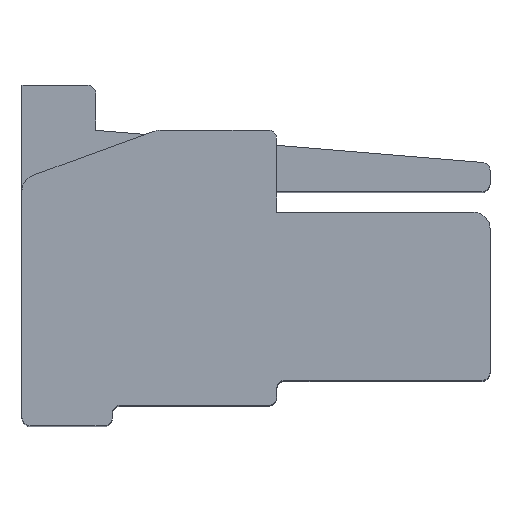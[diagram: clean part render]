
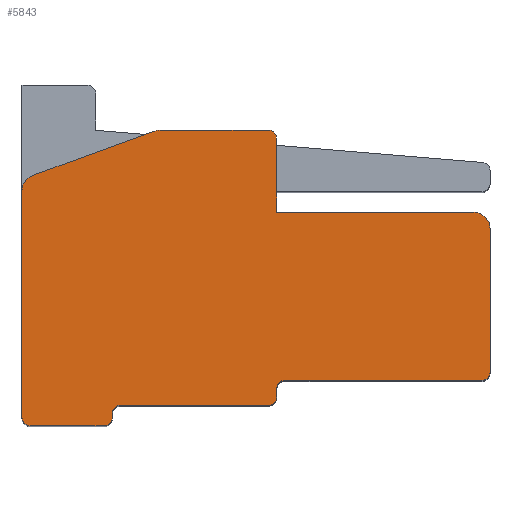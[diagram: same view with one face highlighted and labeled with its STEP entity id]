
A CAD part, top view. The second image highlights one B-rep face of the part: STEP entity #5843.
In plain terms, the highlighted planar face has unit normal (0, 0, 1).
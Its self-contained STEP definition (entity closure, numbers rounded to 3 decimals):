
#113=PLANE('',#6251);
#330=FACE_OUTER_BOUND('',#627,.T.);
#627=EDGE_LOOP('',(#4216,#4217,#4218,#4219,#4220,#4221,#4222,#4223,#4224,
#4225,#4226,#4227,#4228,#4229,#4230,#4231,#4232,#4233,#4234,#4235,#4236));
#1029=LINE('',#8800,#1726);
#1060=LINE('',#8866,#1757);
#1061=LINE('',#8870,#1758);
#1062=LINE('',#8874,#1759);
#1063=LINE('',#8878,#1760);
#1064=LINE('',#8882,#1761);
#1065=LINE('',#8886,#1762);
#1066=LINE('',#8890,#1763);
#1067=LINE('',#8894,#1764);
#1068=LINE('',#8898,#1765);
#1069=LINE('',#8901,#1766);
#1726=VECTOR('',#7050,10.);
#1757=VECTOR('',#7089,10.);
#1758=VECTOR('',#7092,10.);
#1759=VECTOR('',#7095,10.);
#1760=VECTOR('',#7098,10.);
#1761=VECTOR('',#7101,10.);
#1762=VECTOR('',#7104,10.);
#1763=VECTOR('',#7107,10.);
#1764=VECTOR('',#7110,10.);
#1765=VECTOR('',#7113,10.);
#1766=VECTOR('',#7116,10.);
#2337=CIRCLE('',#6249,0.1);
#2339=CIRCLE('',#6252,0.2);
#2340=CIRCLE('',#6253,0.2);
#2341=CIRCLE('',#6254,0.1);
#2342=CIRCLE('',#6255,0.1);
#2343=CIRCLE('',#6256,0.1);
#2344=CIRCLE('',#6257,0.1);
#2345=CIRCLE('',#6258,0.1);
#2346=CIRCLE('',#6259,0.1);
#2347=CIRCLE('',#6260,0.2);
#2608=VERTEX_POINT('',#8797);
#2609=VERTEX_POINT('',#8799);
#2638=VERTEX_POINT('',#8859);
#2640=VERTEX_POINT('',#8865);
#2641=VERTEX_POINT('',#8867);
#2642=VERTEX_POINT('',#8869);
#2643=VERTEX_POINT('',#8871);
#2644=VERTEX_POINT('',#8873);
#2645=VERTEX_POINT('',#8875);
#2646=VERTEX_POINT('',#8877);
#2647=VERTEX_POINT('',#8879);
#2648=VERTEX_POINT('',#8881);
#2649=VERTEX_POINT('',#8883);
#2650=VERTEX_POINT('',#8885);
#2651=VERTEX_POINT('',#8887);
#2652=VERTEX_POINT('',#8889);
#2653=VERTEX_POINT('',#8891);
#2654=VERTEX_POINT('',#8893);
#2655=VERTEX_POINT('',#8895);
#2656=VERTEX_POINT('',#8897);
#2657=VERTEX_POINT('',#8899);
#3234=EDGE_CURVE('',#2609,#2608,#1029,.T.);
#3264=EDGE_CURVE('',#2638,#2608,#2337,.T.);
#3267=EDGE_CURVE('',#2638,#2640,#1060,.T.);
#3268=EDGE_CURVE('',#2641,#2640,#2339,.T.);
#3269=EDGE_CURVE('',#2641,#2642,#1061,.T.);
#3270=EDGE_CURVE('',#2643,#2642,#2340,.T.);
#3271=EDGE_CURVE('',#2643,#2644,#1062,.T.);
#3272=EDGE_CURVE('',#2645,#2644,#2341,.T.);
#3273=EDGE_CURVE('',#2645,#2646,#1063,.T.);
#3274=EDGE_CURVE('',#2647,#2646,#2342,.T.);
#3275=EDGE_CURVE('',#2647,#2648,#1064,.T.);
#3276=EDGE_CURVE('',#2649,#2648,#2343,.T.);
#3277=EDGE_CURVE('',#2649,#2650,#1065,.T.);
#3278=EDGE_CURVE('',#2651,#2650,#2344,.T.);
#3279=EDGE_CURVE('',#2651,#2652,#1066,.T.);
#3280=EDGE_CURVE('',#2653,#2652,#2345,.T.);
#3281=EDGE_CURVE('',#2653,#2654,#1067,.T.);
#3282=EDGE_CURVE('',#2655,#2654,#2346,.T.);
#3283=EDGE_CURVE('',#2655,#2656,#1068,.T.);
#3284=EDGE_CURVE('',#2657,#2656,#2347,.T.);
#3285=EDGE_CURVE('',#2657,#2609,#1069,.T.);
#4216=ORIENTED_EDGE('',*,*,#3264,.F.);
#4217=ORIENTED_EDGE('',*,*,#3267,.T.);
#4218=ORIENTED_EDGE('',*,*,#3268,.F.);
#4219=ORIENTED_EDGE('',*,*,#3269,.T.);
#4220=ORIENTED_EDGE('',*,*,#3270,.F.);
#4221=ORIENTED_EDGE('',*,*,#3271,.T.);
#4222=ORIENTED_EDGE('',*,*,#3272,.F.);
#4223=ORIENTED_EDGE('',*,*,#3273,.T.);
#4224=ORIENTED_EDGE('',*,*,#3274,.F.);
#4225=ORIENTED_EDGE('',*,*,#3275,.T.);
#4226=ORIENTED_EDGE('',*,*,#3276,.F.);
#4227=ORIENTED_EDGE('',*,*,#3277,.T.);
#4228=ORIENTED_EDGE('',*,*,#3278,.F.);
#4229=ORIENTED_EDGE('',*,*,#3279,.T.);
#4230=ORIENTED_EDGE('',*,*,#3280,.F.);
#4231=ORIENTED_EDGE('',*,*,#3281,.T.);
#4232=ORIENTED_EDGE('',*,*,#3282,.F.);
#4233=ORIENTED_EDGE('',*,*,#3283,.T.);
#4234=ORIENTED_EDGE('',*,*,#3284,.F.);
#4235=ORIENTED_EDGE('',*,*,#3285,.T.);
#4236=ORIENTED_EDGE('',*,*,#3234,.T.);
#5843=ADVANCED_FACE('',(#330),#113,.T.);
#6249=AXIS2_PLACEMENT_3D('',#8860,#7082,#7083);
#6251=AXIS2_PLACEMENT_3D('',#8864,#7087,#7088);
#6252=AXIS2_PLACEMENT_3D('',#8868,#7090,#7091);
#6253=AXIS2_PLACEMENT_3D('',#8872,#7093,#7094);
#6254=AXIS2_PLACEMENT_3D('',#8876,#7096,#7097);
#6255=AXIS2_PLACEMENT_3D('',#8880,#7099,#7100);
#6256=AXIS2_PLACEMENT_3D('',#8884,#7102,#7103);
#6257=AXIS2_PLACEMENT_3D('',#8888,#7105,#7106);
#6258=AXIS2_PLACEMENT_3D('',#8892,#7108,#7109);
#6259=AXIS2_PLACEMENT_3D('',#8896,#7111,#7112);
#6260=AXIS2_PLACEMENT_3D('',#8900,#7114,#7115);
#7050=DIRECTION('',(0.,1.,0.));
#7082=DIRECTION('center_axis',(0.,0.,-1.));
#7083=DIRECTION('ref_axis',(0.707,0.707,0.));
#7087=DIRECTION('center_axis',(0.,0.,1.));
#7088=DIRECTION('ref_axis',(1.,0.,0.));
#7089=DIRECTION('',(-1.,0.,0.));
#7090=DIRECTION('center_axis',(0.,0.,-1.));
#7091=DIRECTION('ref_axis',(-0.174,0.985,0.));
#7092=DIRECTION('',(-0.94,-0.342,0.));
#7093=DIRECTION('center_axis',(0.,0.,-1.));
#7094=DIRECTION('ref_axis',(-0.819,0.574,0.));
#7095=DIRECTION('',(0.,-1.,0.));
#7096=DIRECTION('center_axis',(0.,0.,-1.));
#7097=DIRECTION('ref_axis',(-0.707,-0.707,0.));
#7098=DIRECTION('',(1.,0.,0.));
#7099=DIRECTION('center_axis',(0.,0.,-1.));
#7100=DIRECTION('ref_axis',(0.707,-0.707,0.));
#7101=DIRECTION('',(0.,1.,0.));
#7102=DIRECTION('center_axis',(0.,0.,1.));
#7103=DIRECTION('ref_axis',(-0.707,0.707,0.));
#7104=DIRECTION('',(1.,0.,0.));
#7105=DIRECTION('center_axis',(0.,0.,-1.));
#7106=DIRECTION('ref_axis',(0.707,-0.707,0.));
#7107=DIRECTION('',(0.,1.,0.));
#7108=DIRECTION('center_axis',(0.,0.,1.));
#7109=DIRECTION('ref_axis',(-0.707,0.707,0.));
#7110=DIRECTION('',(1.,0.,0.));
#7111=DIRECTION('center_axis',(0.,0.,-1.));
#7112=DIRECTION('ref_axis',(0.707,-0.707,0.));
#7113=DIRECTION('',(0.,1.,0.));
#7114=DIRECTION('center_axis',(0.,0.,-1.));
#7115=DIRECTION('ref_axis',(0.707,0.707,0.));
#7116=DIRECTION('',(-1.,0.,0.));
#8797=CARTESIAN_POINT('',(3.1,3.5,4.375));
#8799=CARTESIAN_POINT('',(3.1,2.6,4.375));
#8800=CARTESIAN_POINT('',(3.1,2.338,4.375));
#8859=CARTESIAN_POINT('',(3.,3.6,4.375));
#8860=CARTESIAN_POINT('Origin',(3.,3.5,4.375));
#8864=CARTESIAN_POINT('Origin',(2.85,2.075,4.375));
#8865=CARTESIAN_POINT('',(1.685,3.6,4.375));
#8866=CARTESIAN_POINT('',(2.975,3.6,4.375));
#8867=CARTESIAN_POINT('',(1.617,3.588,4.375));
#8868=CARTESIAN_POINT('Origin',(1.685,3.4,4.375));
#8869=CARTESIAN_POINT('',(0.132,3.048,4.375));
#8870=CARTESIAN_POINT('',(1.935,3.704,4.375));
#8871=CARTESIAN_POINT('',(0.,2.86,4.375));
#8872=CARTESIAN_POINT('Origin',(0.2,2.86,4.375));
#8873=CARTESIAN_POINT('',(0.,0.1,4.375));
#8874=CARTESIAN_POINT('',(0.,0.,4.375));
#8875=CARTESIAN_POINT('',(0.1,0.,4.375));
#8876=CARTESIAN_POINT('Origin',(0.1,0.1,4.375));
#8877=CARTESIAN_POINT('',(1.,0.,4.375));
#8878=CARTESIAN_POINT('',(5.7,0.,4.375));
#8879=CARTESIAN_POINT('',(1.1,0.1,4.375));
#8880=CARTESIAN_POINT('Origin',(1.,0.1,4.375));
#8881=CARTESIAN_POINT('',(1.1,0.15,4.375));
#8882=CARTESIAN_POINT('',(1.1,1.038,4.375));
#8883=CARTESIAN_POINT('',(1.2,0.25,4.375));
#8884=CARTESIAN_POINT('Origin',(1.2,0.15,4.375));
#8885=CARTESIAN_POINT('',(3.,0.25,4.375));
#8886=CARTESIAN_POINT('',(1.975,0.25,4.375));
#8887=CARTESIAN_POINT('',(3.1,0.35,4.375));
#8888=CARTESIAN_POINT('Origin',(3.,0.35,4.375));
#8889=CARTESIAN_POINT('',(3.1,0.45,4.375));
#8890=CARTESIAN_POINT('',(3.1,1.163,4.375));
#8891=CARTESIAN_POINT('',(3.2,0.55,4.375));
#8892=CARTESIAN_POINT('Origin',(3.2,0.45,4.375));
#8893=CARTESIAN_POINT('',(5.6,0.55,4.375));
#8894=CARTESIAN_POINT('',(2.975,0.55,4.375));
#8895=CARTESIAN_POINT('',(5.7,0.65,4.375));
#8896=CARTESIAN_POINT('Origin',(5.6,0.65,4.375));
#8897=CARTESIAN_POINT('',(5.7,2.4,4.375));
#8898=CARTESIAN_POINT('',(5.7,4.15,4.375));
#8899=CARTESIAN_POINT('',(5.5,2.6,4.375));
#8900=CARTESIAN_POINT('Origin',(5.5,2.4,4.375));
#8901=CARTESIAN_POINT('',(4.275,2.6,4.375));
